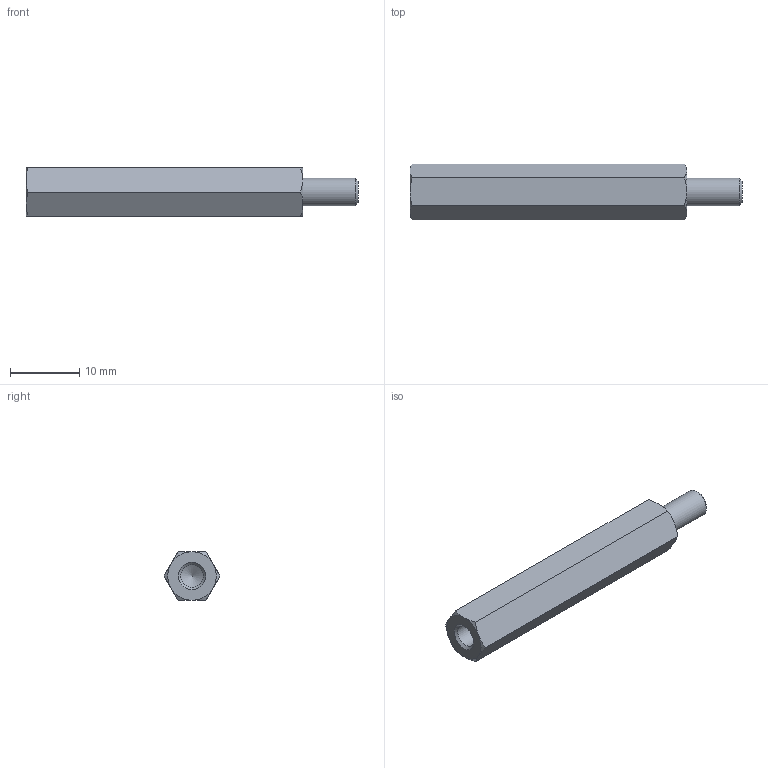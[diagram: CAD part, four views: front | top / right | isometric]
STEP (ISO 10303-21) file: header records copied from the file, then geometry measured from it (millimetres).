
FILE_DESCRIPTION( ( 'STEP AP203' ), '1' );
FILE_NAME( 'C:/Temp/Ganter_Step_05_03_2020/data/3_2/gn6220/gn6220_st/Spacer GN 6220-ST-M4-40-B.stp', '2020-03-13T05:42:40', ( 'License CC BY-ND 4.0' ), ( 'CADENAS' ), ' ', 'PARTsolutions', ' ' );
FILE_SCHEMA( ( 'CONFIG_CONTROL_DESIGN' ) );
Length unit declared in the file: millimetre
Products named in the file (1): _Spacer GN 6220-ST-M4-40-B
Bounding box: 48 x 8.08 x 7 mm (x, y, z)
Volume: 1678.7 mm3; surface area: 1287.8 mm2
Topology: 1 solids, 1 shells, 26 faces, 55 edges, 32 vertices
Faces by surface type: cone 15, plane 9, cylinder 2
Full cylindrical faces by diameter (mm): 3.242 x1, 4 x1
Entity records: 746 total; most frequent: CARTESIAN_POINT 210, DIRECTION 96, ORIENTED_EDGE 96, EDGE_CURVE 48, AXIS2_PLACEMENT_3D 45, EDGE_LOOP 32, VERTEX_POINT 31, FACE_OUTER_BOUND 28
